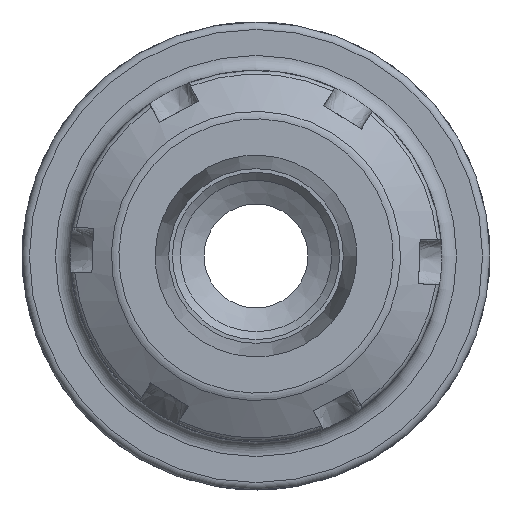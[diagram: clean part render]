
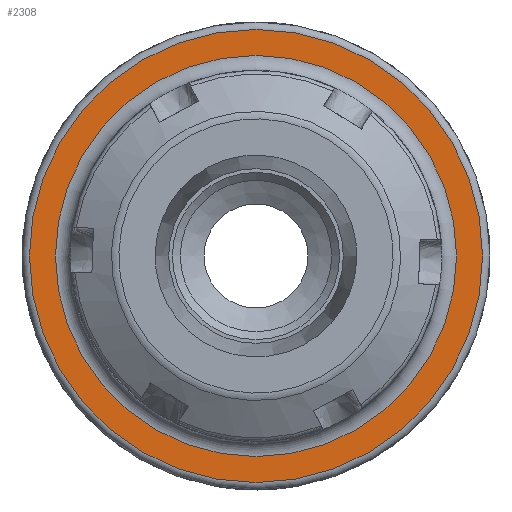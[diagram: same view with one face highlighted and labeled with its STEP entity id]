
A CAD part, front view. The second image highlights one B-rep face of the part: STEP entity #2308.
In plain terms, the highlighted planar face has unit normal (0, -1, 0).
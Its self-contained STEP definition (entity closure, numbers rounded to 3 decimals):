
#145=FACE_BOUND('',#393,.T.);
#155=PLANE('',#2533);
#262=FACE_OUTER_BOUND('',#392,.T.);
#392=EDGE_LOOP('',(#1626,#1627));
#393=EDGE_LOOP('',(#1628,#1629));
#781=CIRCLE('',#2531,27.);
#782=CIRCLE('',#2532,27.);
#783=CIRCLE('',#2534,30.5);
#784=CIRCLE('',#2535,30.5);
#935=VERTEX_POINT('',#3512);
#936=VERTEX_POINT('',#3514);
#937=VERTEX_POINT('',#3518);
#938=VERTEX_POINT('',#3519);
#1204=EDGE_CURVE('',#935,#936,#781,.T.);
#1205=EDGE_CURVE('',#936,#935,#782,.T.);
#1206=EDGE_CURVE('',#937,#938,#783,.T.);
#1207=EDGE_CURVE('',#938,#937,#784,.T.);
#1626=ORIENTED_EDGE('',*,*,#1206,.F.);
#1627=ORIENTED_EDGE('',*,*,#1207,.F.);
#1628=ORIENTED_EDGE('',*,*,#1205,.F.);
#1629=ORIENTED_EDGE('',*,*,#1204,.F.);
#2308=ADVANCED_FACE('',(#262,#145),#155,.T.);
#2531=AXIS2_PLACEMENT_3D('',#3515,#2871,#2872);
#2532=AXIS2_PLACEMENT_3D('',#3516,#2873,#2874);
#2533=AXIS2_PLACEMENT_3D('',#3517,#2875,#2876);
#2534=AXIS2_PLACEMENT_3D('',#3520,#2877,#2878);
#2535=AXIS2_PLACEMENT_3D('',#3521,#2879,#2880);
#2871=DIRECTION('center_axis',(0.,-1.,0.));
#2872=DIRECTION('ref_axis',(-1.,0.,0.));
#2873=DIRECTION('center_axis',(0.,-1.,0.));
#2874=DIRECTION('ref_axis',(-1.,0.,0.));
#2875=DIRECTION('center_axis',(0.,-1.,0.));
#2876=DIRECTION('ref_axis',(0.,0.,-1.));
#2877=DIRECTION('center_axis',(0.,1.,0.));
#2878=DIRECTION('ref_axis',(1.,0.,0.));
#2879=DIRECTION('center_axis',(0.,1.,0.));
#2880=DIRECTION('ref_axis',(1.,0.,0.));
#3512=CARTESIAN_POINT('',(0.,-27.,-27.));
#3514=CARTESIAN_POINT('',(27.,-27.,0.));
#3515=CARTESIAN_POINT('Origin',(0.,-27.,0.));
#3516=CARTESIAN_POINT('Origin',(0.,-27.,0.));
#3517=CARTESIAN_POINT('Origin',(-31.5,-27.,0.));
#3518=CARTESIAN_POINT('',(-30.5,-27.,0.));
#3519=CARTESIAN_POINT('',(0.,-27.,-30.5));
#3520=CARTESIAN_POINT('Origin',(0.,-27.,0.));
#3521=CARTESIAN_POINT('Origin',(0.,-27.,0.));
